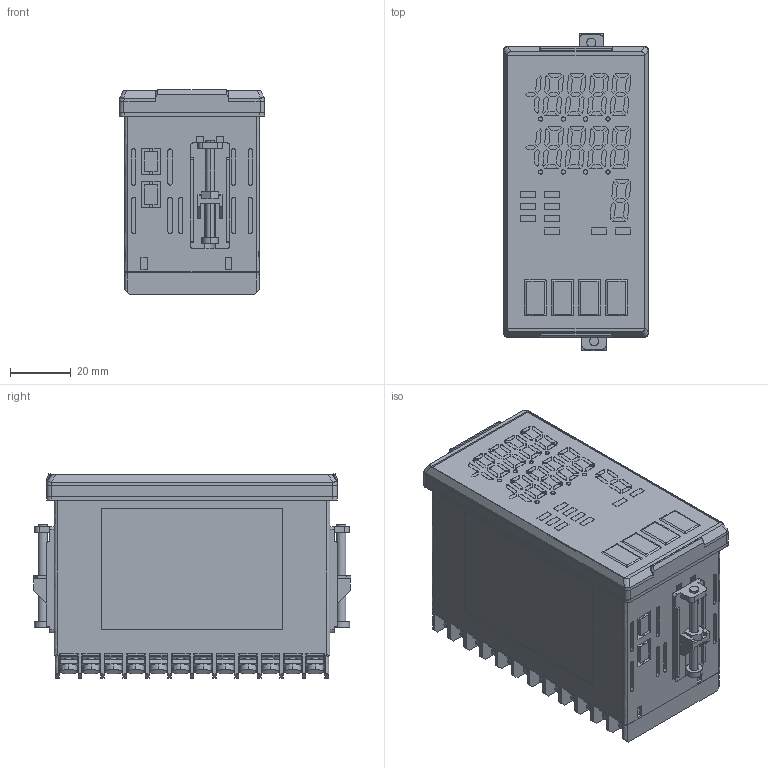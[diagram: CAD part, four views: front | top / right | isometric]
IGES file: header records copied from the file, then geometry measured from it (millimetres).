
Start section: SolidWorks IGES file using analytic representation for surfaces
Global section: file name: \\DJ3203\mecha_3d\B\BCR2\D14-011\HP_3D\BCR2_iges\AS_BCR2_141105.IGS; native system: SolidWorks 2013; preprocessor: SolidWorks 2013; author: soyama; date: 141128.182509; units: millimetre
Bounding box: 48 x 104.95 x 67.5 mm (x, y, z)
Surface area: 47547.3 mm2 (no closed solid volume)
Topology: 0 solids, 0 shells, 1880 faces, 15330 edges, 15330 vertices
Faces by surface type: bspline 1420, revolution 460
